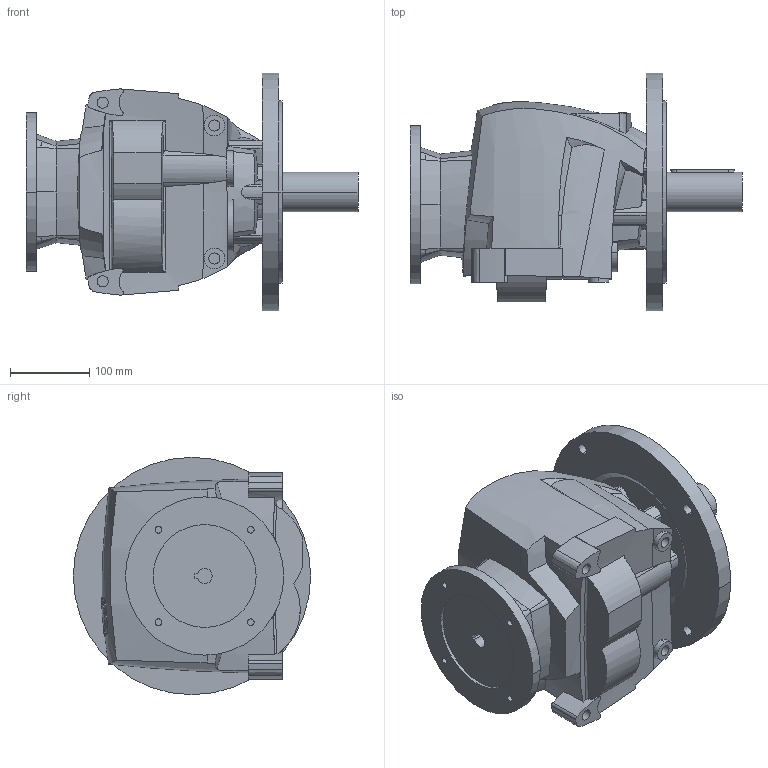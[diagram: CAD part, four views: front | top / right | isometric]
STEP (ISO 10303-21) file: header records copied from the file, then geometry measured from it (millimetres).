
FILE_DESCRIPTION((''),'2;1');
FILE_NAME('R40_300_PAM80_D2','2013-11-27T',('Luca'),(''),'PRO/ENGINEER BY PARAMETRIC TECHNOLOGY CORPORATION, 2008230','PRO/ENGINEER BY PARAMETRIC TECHNOLOGY CORPORATION, 2008230','');
FILE_SCHEMA(('CONFIG_CONTROL_DESIGN'));
Length unit declared in the file: millimetre
Products named in the file (1): R40_300_PAM80_D2
Bounding box: 419.5 x 300 x 300 mm (x, y, z)
Volume: 12453929.6 mm3; surface area: 529615.2 mm2
Topology: 1 solids, 8 shells, 454 faces, 1207 edges, 806 vertices
Faces by surface type: plane 150, cylinder 149, bspline 88, extrusion 37, cone 22, torus 8
Entity records: 19065 total; most frequent: CARTESIAN_POINT 8669, ORIENTED_EDGE 2410, DIRECTION 1675, EDGE_CURVE 1205, VERTEX_POINT 806, AXIS2_PLACEMENT_3D 565, VECTOR 545, LINE 508
